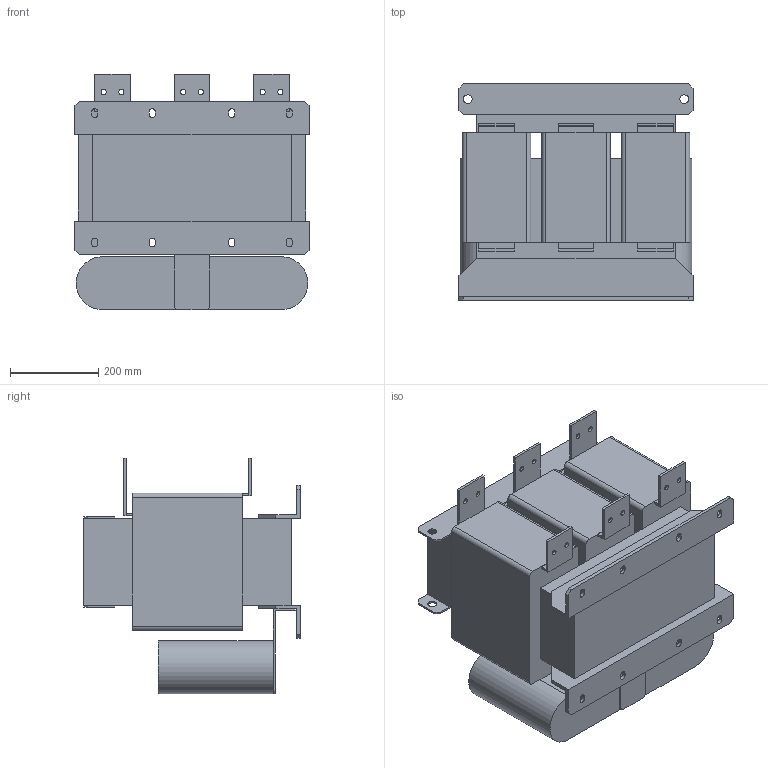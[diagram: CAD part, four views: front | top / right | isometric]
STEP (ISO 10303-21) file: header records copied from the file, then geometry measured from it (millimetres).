
FILE_DESCRIPTION(/* description */ (''),/* implementation_level */ '2;1');
FILE_NAME(/* name */ 'Sin-T4-880.stp',/* time_stamp */ '2025-03-10T19:39:10+04:00',/* author */ ('Лео'),/* organization */ (''),/* preprocessor_version */ 'ST-DEVELOPER v19.2',/* originating_system */ 'Autodesk Inventor 2024',/* authorisation */ '');
FILE_SCHEMA (('AUTOMOTIVE_DESIGN { 1 0 10303 214 3 1 1 }'));
Length unit declared in the file: millimetre
Products named in the file (1): Sin-T4-004
Bounding box: 530 x 490 x 533 mm (x, y, z)
Volume: 73441249.2 mm3; surface area: 2736340.8 mm2
Topology: 23 solids, 23 shells, 224 faces, 534 edges, 356 vertices
Faces by surface type: plane 174, cylinder 50
Full cylindrical faces by diameter (mm): 12 x12, 20 x4
Entity records: 6555 total; most frequent: CARTESIAN_POINT 1115, DIRECTION 1084, ORIENTED_EDGE 1068, EDGE_CURVE 534, LINE 434, VECTOR 434, VERTEX_POINT 356, AXIS2_PLACEMENT_3D 325
